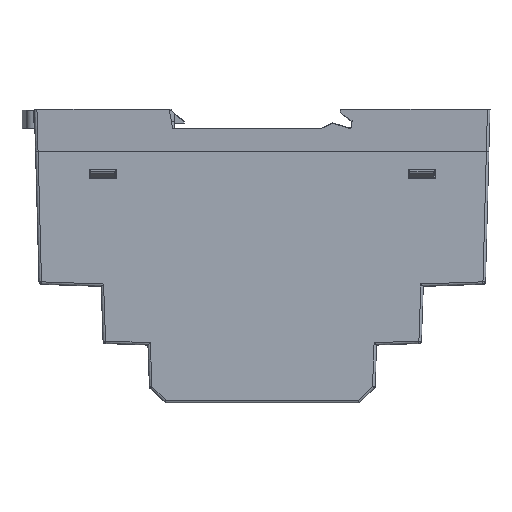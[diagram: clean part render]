
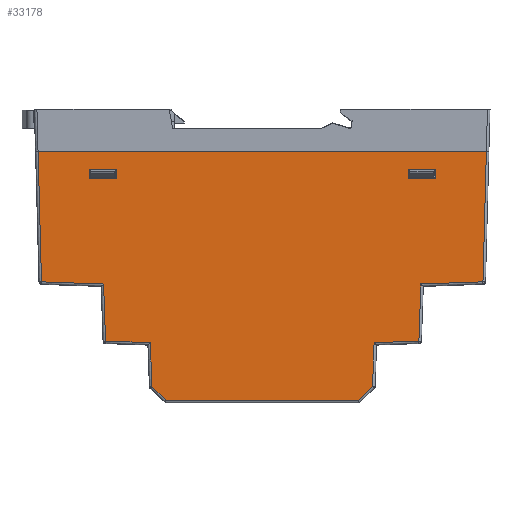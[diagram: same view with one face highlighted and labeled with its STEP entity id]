
A CAD part, left-side view. The second image highlights one B-rep face of the part: STEP entity #33178.
In plain terms, the highlighted planar face has unit normal (-1, 0, -0.009).
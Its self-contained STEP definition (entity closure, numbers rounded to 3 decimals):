
#22015=DIRECTION('',(0.,-1.,0.));
#22016=VECTOR('',#22015,88.56);
#22017=CARTESIAN_POINT('',(-17.273,-18.41,
1.25));
#22018=LINE('',#22017,#22016);
#22019=DIRECTION('',(0.009,0.026,-1.));
#22020=VECTOR('',#22019,25.712);
#22021=CARTESIAN_POINT('',(-17.273,-106.97,
1.25));
#22022=LINE('',#22021,#22020);
#22023=DIRECTION('',(0.,0.999,-0.035));
#22024=VECTOR('',#22023,12.276);
#22025=CARTESIAN_POINT('',(-17.048,-106.297,
-24.452));
#22026=LINE('',#22025,#22024);
#22027=DIRECTION('',(0.009,0.035,-0.999));
#22028=VECTOR('',#22027,11.286);
#22029=CARTESIAN_POINT('',(-17.045,-94.029,
-24.88));
#22030=LINE('',#22029,#22028);
#22031=DIRECTION('',(0.,0.999,-0.035));
#22032=VECTOR('',#22031,8.851);
#22033=CARTESIAN_POINT('',(-16.946,-93.635,
-36.159));
#22034=LINE('',#22033,#22032);
#22035=DIRECTION('',(0.009,0.035,-0.999));
#22036=VECTOR('',#22035,8.674);
#22037=CARTESIAN_POINT('',(-16.944,-84.79,
-36.468));
#22038=LINE('',#22037,#22036);
#22039=DIRECTION('',(0.006,0.719,-0.695));
#22040=VECTOR('',#22039,3.912);
#22041=CARTESIAN_POINT('',(-16.868,-84.487,
-45.137));
#22042=LINE('',#22041,#22040);
#22043=DIRECTION('',(-0.006,0.719,0.695));
#22044=VECTOR('',#22043,3.912);
#22045=CARTESIAN_POINT('',(-16.844,-43.706,
-47.854));
#22046=LINE('',#22045,#22044);
#22047=DIRECTION('',(-0.009,0.035,0.999));
#22048=VECTOR('',#22047,8.674);
#22049=CARTESIAN_POINT('',(-16.868,-40.892,
-45.137));
#22050=LINE('',#22049,#22048);
#22051=DIRECTION('',(0.,0.999,0.035));
#22052=VECTOR('',#22051,8.851);
#22053=CARTESIAN_POINT('',(-16.944,-40.589,
-36.468));
#22054=LINE('',#22053,#22052);
#22055=DIRECTION('',(-0.009,0.035,0.999));
#22056=VECTOR('',#22055,11.281);
#22057=CARTESIAN_POINT('',(-16.946,-31.744,
-36.159));
#22058=LINE('',#22057,#22056);
#22059=DIRECTION('',(0.,0.999,0.035));
#22060=VECTOR('',#22059,12.275);
#22061=CARTESIAN_POINT('',(-17.045,-31.35,
-24.885));
#22062=LINE('',#22061,#22060);
#22063=DIRECTION('',(-0.009,0.026,1.));
#22064=VECTOR('',#22063,25.717);
#22065=CARTESIAN_POINT('',(-17.049,-19.083,
-24.457));
#22066=LINE('',#22065,#22064);
#22067=DIRECTION('',(0.,1.,0.));
#22068=VECTOR('',#22067,5.368);
#22069=CARTESIAN_POINT('',(-17.243,-96.873,
-2.21));
#22070=LINE('',#22069,#22068);
#22071=DIRECTION('',(0.009,0.,-1.));
#22072=VECTOR('',#22071,1.828);
#22073=CARTESIAN_POINT('',(-17.243,-91.506,
-2.21));
#22074=LINE('',#22073,#22072);
#22075=DIRECTION('',(0.,-1.,0.));
#22076=VECTOR('',#22075,5.367);
#22077=CARTESIAN_POINT('',(-17.227,-91.506,
-4.038));
#22078=LINE('',#22077,#22076);
#22079=DIRECTION('',(-0.009,0.,1.));
#22080=VECTOR('',#22079,1.828);
#22081=CARTESIAN_POINT('',(-17.227,-96.873,
-4.038));
#22082=LINE('',#22081,#22080);
#22083=DIRECTION('',(0.,-1.,0.));
#22084=VECTOR('',#22083,5.367);
#22085=CARTESIAN_POINT('',(-17.227,-28.531,
-4.038));
#22086=LINE('',#22085,#22084);
#22087=DIRECTION('',(-0.009,0.,1.));
#22088=VECTOR('',#22087,1.828);
#22089=CARTESIAN_POINT('',(-17.227,-33.898,
-4.038));
#22090=LINE('',#22089,#22088);
#22091=DIRECTION('',(0.,1.,0.));
#22092=VECTOR('',#22091,5.368);
#22093=CARTESIAN_POINT('',(-17.243,-33.898,
-2.21));
#22094=LINE('',#22093,#22092);
#22095=DIRECTION('',(0.009,0.,-1.));
#22096=VECTOR('',#22095,1.828);
#22097=CARTESIAN_POINT('',(-17.243,-28.531,
-2.21));
#22098=LINE('',#22097,#22096);
#22106=CARTESIAN_POINT('',(-17.273,-106.97,
1.25));
#22288=DIRECTION('',(0.,-1.,0.));
#22289=VECTOR('',#22288,37.967);
#22290=CARTESIAN_POINT('',(-16.844,-43.706,
-47.854));
#22291=LINE('',#22290,#22289);
#25554=VERTEX_POINT('',#22106);
#25555=CARTESIAN_POINT('',(-17.273,-18.41,
1.25));
#25556=VERTEX_POINT('',#25555);
#26805=CARTESIAN_POINT('',(-17.243,-96.873,
-2.21));
#26806=VERTEX_POINT('',#26805);
#26807=CARTESIAN_POINT('',(-17.227,-96.873,
-4.038));
#26808=VERTEX_POINT('',#26807);
#26809=CARTESIAN_POINT('',(-17.243,-91.506,
-2.21));
#26810=VERTEX_POINT('',#26809);
#26811=CARTESIAN_POINT('',(-17.227,-91.506,
-4.038));
#26812=VERTEX_POINT('',#26811);
#26813=CARTESIAN_POINT('',(-17.048,-106.297,
-24.452));
#26814=VERTEX_POINT('',#26813);
#26815=CARTESIAN_POINT('',(-17.045,-94.029,
-24.88));
#26816=VERTEX_POINT('',#26815);
#26817=CARTESIAN_POINT('',(-16.946,-93.635,
-36.159));
#26818=VERTEX_POINT('',#26817);
#26819=CARTESIAN_POINT('',(-16.944,-84.79,
-36.468));
#26820=VERTEX_POINT('',#26819);
#26821=CARTESIAN_POINT('',(-16.868,-84.487,
-45.137));
#26822=VERTEX_POINT('',#26821);
#26823=CARTESIAN_POINT('',(-16.844,-81.673,
-47.854));
#26824=VERTEX_POINT('',#26823);
#26825=CARTESIAN_POINT('',(-16.844,-43.706,
-47.854));
#26826=VERTEX_POINT('',#26825);
#26827=CARTESIAN_POINT('',(-16.868,-40.892,
-45.137));
#26828=VERTEX_POINT('',#26827);
#26829=CARTESIAN_POINT('',(-16.944,-40.589,
-36.468));
#26830=VERTEX_POINT('',#26829);
#26831=CARTESIAN_POINT('',(-16.946,-31.744,
-36.159));
#26832=VERTEX_POINT('',#26831);
#26833=CARTESIAN_POINT('',(-17.045,-31.35,
-24.885));
#26834=VERTEX_POINT('',#26833);
#26835=CARTESIAN_POINT('',(-17.049,-19.083,
-24.457));
#26836=VERTEX_POINT('',#26835);
#26837=CARTESIAN_POINT('',(-17.227,-28.531,
-4.038));
#26838=CARTESIAN_POINT('',(-17.227,-33.898,
-4.038));
#26839=VERTEX_POINT('',#26837);
#26840=VERTEX_POINT('',#26838);
#26841=CARTESIAN_POINT('',(-17.243,-33.898,
-2.21));
#26842=VERTEX_POINT('',#26841);
#26843=CARTESIAN_POINT('',(-17.243,-28.531,
-2.21));
#26844=VERTEX_POINT('',#26843);
#33128=CARTESIAN_POINT('',(-16.836,-16.638,
-48.836));
#33129=DIRECTION('',(-1.,0.,-0.009));
#33130=DIRECTION('',(0.,1.,0.));
#33131=AXIS2_PLACEMENT_3D('',#33128,#33129,#33130);
#33132=PLANE('',#33131);
#33133=ORIENTED_EDGE('',*,*,#27789,.T.);
#33135=ORIENTED_EDGE('',*,*,#33134,.T.);
#33137=ORIENTED_EDGE('',*,*,#33136,.T.);
#33139=ORIENTED_EDGE('',*,*,#33138,.T.);
#33141=ORIENTED_EDGE('',*,*,#33140,.T.);
#33143=ORIENTED_EDGE('',*,*,#33142,.T.);
#33145=ORIENTED_EDGE('',*,*,#33144,.T.);
#33147=ORIENTED_EDGE('',*,*,#33146,.F.);
#33149=ORIENTED_EDGE('',*,*,#33148,.T.);
#33151=ORIENTED_EDGE('',*,*,#33150,.T.);
#33153=ORIENTED_EDGE('',*,*,#33152,.T.);
#33155=ORIENTED_EDGE('',*,*,#33154,.T.);
#33157=ORIENTED_EDGE('',*,*,#33156,.T.);
#33159=ORIENTED_EDGE('',*,*,#33158,.T.);
#33160=EDGE_LOOP('',(#33133,#33135,#33137,#33139,#33141,#33143,#33145,#33147,
#33149,#33151,#33153,#33155,#33157,#33159));
#33161=FACE_OUTER_BOUND('',#33160,.F.);
#33162=ORIENTED_EDGE('',*,*,#33074,.T.);
#33163=ORIENTED_EDGE('',*,*,#33095,.T.);
#33164=ORIENTED_EDGE('',*,*,#33115,.T.);
#33165=ORIENTED_EDGE('',*,*,#33052,.T.);
#33166=EDGE_LOOP('',(#33162,#33163,#33164,#33165));
#33167=FACE_BOUND('',#33166,.F.);
#33169=ORIENTED_EDGE('',*,*,#33168,.T.);
#33171=ORIENTED_EDGE('',*,*,#33170,.T.);
#33173=ORIENTED_EDGE('',*,*,#33172,.T.);
#33175=ORIENTED_EDGE('',*,*,#33174,.T.);
#33176=EDGE_LOOP('',(#33169,#33171,#33173,#33175));
#33177=FACE_BOUND('',#33176,.F.);
#27789=EDGE_CURVE('',#25556,#25554,#22018,.T.);
#33052=EDGE_CURVE('',#26808,#26806,#22082,.T.);
#33074=EDGE_CURVE('',#26806,#26810,#22070,.T.);
#33095=EDGE_CURVE('',#26810,#26812,#22074,.T.);
#33115=EDGE_CURVE('',#26812,#26808,#22078,.T.);
#33134=EDGE_CURVE('',#25554,#26814,#22022,.T.);
#33136=EDGE_CURVE('',#26814,#26816,#22026,.T.);
#33138=EDGE_CURVE('',#26816,#26818,#22030,.T.);
#33140=EDGE_CURVE('',#26818,#26820,#22034,.T.);
#33142=EDGE_CURVE('',#26820,#26822,#22038,.T.);
#33144=EDGE_CURVE('',#26822,#26824,#22042,.T.);
#33146=EDGE_CURVE('',#26826,#26824,#22291,.T.);
#33148=EDGE_CURVE('',#26826,#26828,#22046,.T.);
#33150=EDGE_CURVE('',#26828,#26830,#22050,.T.);
#33152=EDGE_CURVE('',#26830,#26832,#22054,.T.);
#33154=EDGE_CURVE('',#26832,#26834,#22058,.T.);
#33156=EDGE_CURVE('',#26834,#26836,#22062,.T.);
#33158=EDGE_CURVE('',#26836,#25556,#22066,.T.);
#33168=EDGE_CURVE('',#26839,#26840,#22086,.T.);
#33170=EDGE_CURVE('',#26840,#26842,#22090,.T.);
#33172=EDGE_CURVE('',#26842,#26844,#22094,.T.);
#33174=EDGE_CURVE('',#26844,#26839,#22098,.T.);
#33178=ADVANCED_FACE('',(#33161,#33167,#33177),#33132,.T.);
